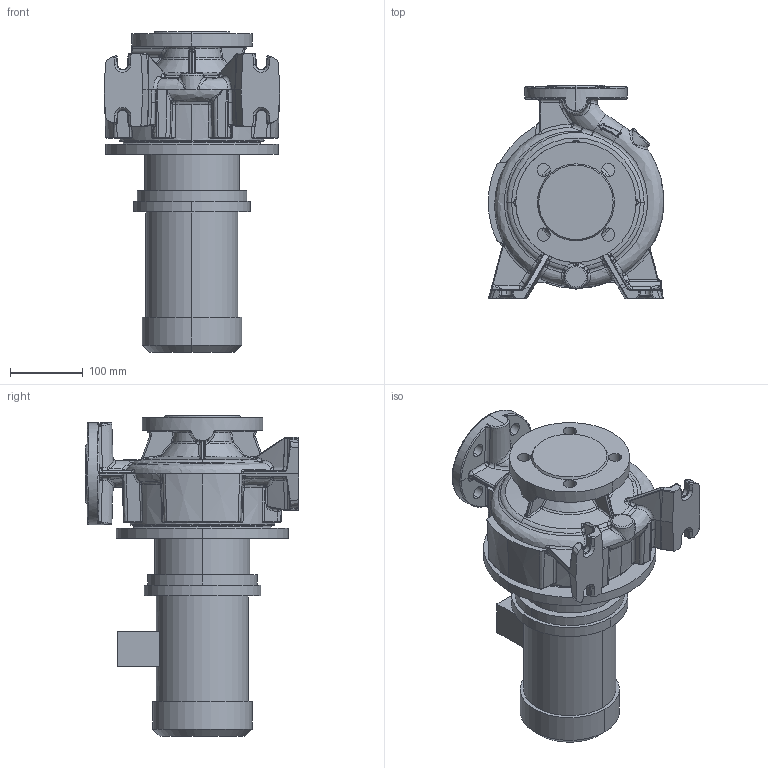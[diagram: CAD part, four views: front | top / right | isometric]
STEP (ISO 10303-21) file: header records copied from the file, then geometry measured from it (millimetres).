
FILE_DESCRIPTION (( 'STEP AP214' ), '1' );
FILE_NAME ('KRM 50-32-160.1-4-0,37.STEP', '2026-04-23T07:48:39', ( '' ), ( '' ), 'SwSTEP 2.0', 'SolidWorks 2016', '' );
FILE_SCHEMA (( 'AUTOMOTIVE_DESIGN' ));
Length unit declared in the file: millimetre
Products named in the file (1): KRM 50-32-160.1-4-0,37
Bounding box: 240.71 x 292.5 x 439.8 mm (x, y, z)
Volume: 9643400.5 mm3; surface area: 656679.3 mm2
Topology: 4 solids, 4 shells, 1060 faces, 2499 edges, 1433 vertices
Faces by surface type: bspline 527, cylinder 228, plane 151, torus 68, cone 50, sphere 36
Entity records: 103989 total; most frequent: CARTESIAN_POINT 72280, ORIENTED_EDGE 4932, DIRECTION 3241, EDGE_CURVE 2466, VERTEX_POINT 1433, AXIS2_PLACEMENT_3D 1397, EDGE_LOOP 1095, UNCERTAINTY_MEASURE_WITH_UNIT 1066
